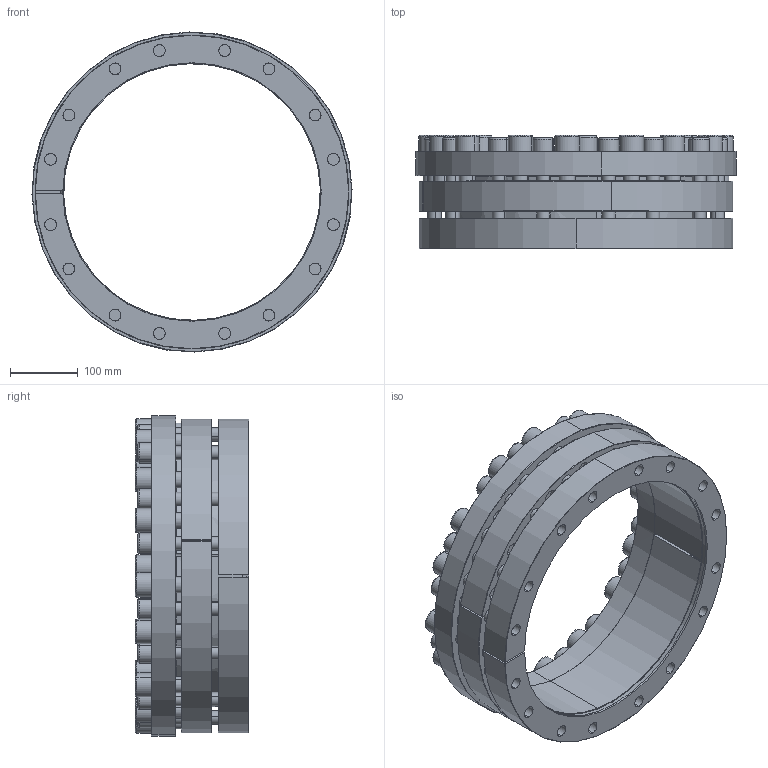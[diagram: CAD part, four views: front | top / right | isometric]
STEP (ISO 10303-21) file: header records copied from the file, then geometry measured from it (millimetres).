
FILE_DESCRIPTION (( 'STEP AP214' ), '1' );
FILE_NAME ('CONEX-P-380x465-P-013.step', '2015-11-30T21:14:43', ( '' ), ( '' ), 'SwSTEP 2.0', 'SolidWorks 2013', '' );
FILE_SCHEMA (( 'AUTOMOTIVE_DESIGN' ));
Length unit declared in the file: millimetre
Products named in the file (1): CONEX-P-380x465-P-013
Bounding box: 473.93 x 168.01 x 473.93 mm (x, y, z)
Volume: 7873186.1 mm3; surface area: 1445707.9 mm2
Topology: 35 solids, 35 shells, 1119 faces, 2575 edges, 1526 vertices
Faces by surface type: plane 500, cylinder 324, cone 164, torus 131
Entity records: 44125 total; most frequent: DIRECTION 5930, CARTESIAN_POINT 5277, ORIENTED_EDGE 5022, EDGE_CURVE 2511, AXIS2_PLACEMENT_3D 2327, VERTEX_POINT 1526, EDGE_LOOP 1359, VECTOR 1276
